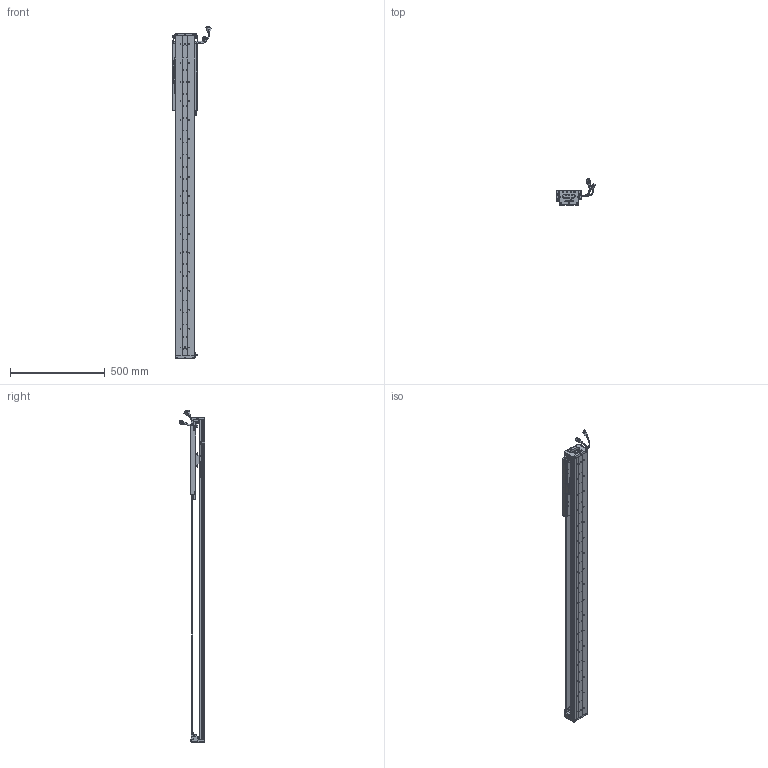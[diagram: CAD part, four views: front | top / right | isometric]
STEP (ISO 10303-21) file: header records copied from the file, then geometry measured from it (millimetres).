
FILE_DESCRIPTION (( 'STEP AP203' ), '1' );
FILE_NAME ('Z5-RY100D-1-L500-B-K.SLDASM_1250.step', '2021-05-17T03:33:18', ( '盈信电脑' ), ( '东莞市道滘镇水果街19号' ), 'SwSTEP 2.0', 'SolidWorks 2016', '' );
FILE_SCHEMA (( 'CONFIG_CONTROL_DESIGN' ));
Length unit declared in the file: millimetre
Products named in the file (36): Z-RY100D詩湍奻揤裔; HARNESS-Part-2; 140蚥薯蝶輸; HARNESS-Part-1; Z-100詩湍傷裔啣; Z5-RY100D-500-倰第菁釱_1250; SCREW-M1.6; SHIELDPLATE; 100-Z-臏賑輸盄裔(21遴); SEAL-Part-1; COVER; Z5-RY100D-1-L500-B-K.SLDASM_1250; SCALE-Part-2; Z-RY100D覜茼んえ; LABEL; SCREW-M1.6-3; 榋妏寠巭燃_暯_M2_2; SCALE-Part-1; SCALE; SCREW-M1.6-2; SEAL; Z5-RY100铝滑块（21款）; Z-RY100D詩湍狟揤裔; SCREW-M1.7; PSLH080_PSLF2; Z5-RY100-L500詩湍90mm遵_1250; 140雄赽晤鎢ん堤盄; HOLDER0; COVER-Part-1; 080黍杅芛假蚾釱21遴; 覜茼ん672; SCREW-M1.7-1; SCREW-M1.6-1; LABEL-Part-1; PBU_SHEET; HARNESS
Assembly tree (43 placements, depth 4):
  Z5-RY100D-1-L500-B-K.SLDASM_1250
    Z5-RY100D-500-倰第菁釱_1250
    Z5-RY100铝滑块（21款）
    PSLH080_PSLF2
      SCALE
        SCALE-Part-1
        SCALE-Part-2
      HARNESS
        HARNESS-Part-1
        HARNESS-Part-2
      LABEL
        LABEL-Part-1
      COVER
        COVER-Part-1
      SEAL
        SEAL-Part-1
      榋妏寠巭燃_暯_M2_2
      SHIELDPLATE
      SCREW-M1.7
      SCREW-M1.7-1
      PBU_SHEET
      SCREW-M1.6
      SCREW-M1.6-1
      SCREW-M1.6-2
      SCREW-M1.6-3
      HOLDER0
    080黍杅芛假蚾釱21遴
    Z-100詩湍傷裔啣  x2
    140蚥薯蝶輸  x2
    覜茼ん672  x3
    Z-RY100D覜茼んえ  x3
    100-Z-臏賑輸盄裔(21遴)
    140雄赽晤鎢ん堤盄
    Z5-RY100-L500詩湍90mm遵_1250
    Z-RY100D詩湍狟揤裔  x2
    Z-RY100D詩湍奻揤裔  x2
Bounding box: 205.83 x 136.11 x 1750.43 mm (x, y, z)
Volume: 3628942.3 mm3; surface area: 1375814.6 mm2
Topology: 38 solids, 38 shells, 2767 faces, 7381 edges, 4688 vertices
Faces by surface type: cylinder 1270, plane 1149, cone 226, torus 69, bspline 53
Entity records: 77315 total; most frequent: CARTESIAN_POINT 16231, DIRECTION 12355, ORIENTED_EDGE 11642, EDGE_CURVE 5821, AXIS2_PLACEMENT_3D 4592, VERTEX_POINT 3756, LINE 3171, VECTOR 3171
